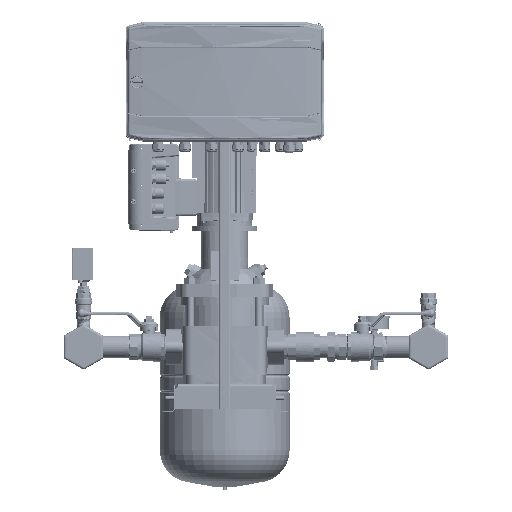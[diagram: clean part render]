
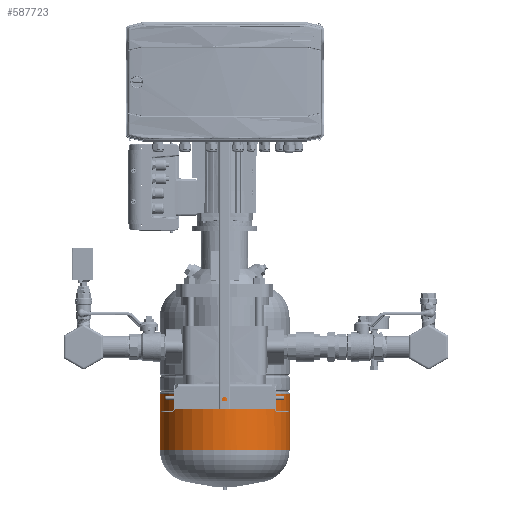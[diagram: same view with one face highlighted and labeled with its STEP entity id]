
A CAD part, left-side view. The second image highlights one B-rep face of the part: STEP entity #587723.
In plain terms, the highlighted cylindrical face has radius 140 mm (diameter 280 mm), a partial arc.
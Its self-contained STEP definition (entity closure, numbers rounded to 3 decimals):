
#580832=CARTESIAN_POINT('Vertex',(-140.,0.,-20.533)) ;
#580835=CARTESIAN_POINT('Axis2P3D Location',(0.,0.,-20.533)) ;
#580839=CARTESIAN_POINT('Vertex',(0.,-140.,-20.533)) ;
#580894=CARTESIAN_POINT('Vertex',(0.,140.,-20.533)) ;
#580897=CARTESIAN_POINT('Axis2P3D Location',(0.,0.,-20.533)) ;
#587638=CARTESIAN_POINT('Axis2P3D Location',(0.,0.,-85.867)) ;
#587643=CARTESIAN_POINT('Line Origine',(0.,140.,-85.867)) ;
#587647=CARTESIAN_POINT('Vertex',(0.,140.,-142.492)) ;
#587650=CARTESIAN_POINT('Line Origine',(0.,-140.,-85.867)) ;
#587654=CARTESIAN_POINT('Vertex',(0.,-140.,-142.492)) ;
#587692=CARTESIAN_POINT('Control Point',(-140.,0.,-142.492)) ;
#587693=CARTESIAN_POINT('Control Point',(-140.,21.991,-142.492)) ;
#587694=CARTESIAN_POINT('Control Point',(-135.682,43.982,-142.492)) ;
#587695=CARTESIAN_POINT('Control Point',(-127.042,64.842,-142.492)) ;
#587696=CARTESIAN_POINT('Control Point',(-102.048,102.048,-142.492)) ;
#587697=CARTESIAN_POINT('Control Point',(-64.842,127.042,-142.492)) ;
#587698=CARTESIAN_POINT('Control Point',(-43.982,135.682,-142.492)) ;
#587699=CARTESIAN_POINT('Control Point',(-21.991,140.,-142.492)) ;
#587700=CARTESIAN_POINT('Control Point',(0.,140.,-142.492)) ;
#587701=CARTESIAN_POINT('Vertex',(-140.,0.,-142.492)) ;
#587705=CARTESIAN_POINT('Control Point',(0.,-140.,-142.492)) ;
#587706=CARTESIAN_POINT('Control Point',(-21.991,-140.,-142.492)) ;
#587707=CARTESIAN_POINT('Control Point',(-43.982,-135.682,-142.492)) ;
#587708=CARTESIAN_POINT('Control Point',(-64.842,-127.042,-142.492)) ;
#587709=CARTESIAN_POINT('Control Point',(-102.048,-102.048,-142.492)) ;
#587710=CARTESIAN_POINT('Control Point',(-127.042,-64.842,-142.492)) ;
#587711=CARTESIAN_POINT('Control Point',(-135.682,-43.982,-142.492)) ;
#587712=CARTESIAN_POINT('Control Point',(-140.,-21.991,-142.492)) ;
#587713=CARTESIAN_POINT('Control Point',(-140.,0.,-142.492)) ;
#587645=VECTOR('Line Direction',#587644,1.) ;
#587652=VECTOR('Line Direction',#587651,1.) ;
#580836=DIRECTION('Axis2P3D Direction',(0.,0.,-1.)) ;
#580898=DIRECTION('Axis2P3D Direction',(0.,0.,-1.)) ;
#587639=DIRECTION('Axis2P3D Direction',(0.,0.,-1.)) ;
#587640=DIRECTION('Axis2P3D XDirection',(0.,-1.,0.)) ;
#587644=DIRECTION('Vector Direction',(0.,0.,-1.)) ;
#587651=DIRECTION('Vector Direction',(0.,0.,-1.)) ;
#580837=AXIS2_PLACEMENT_3D('Circle Axis2P3D',#580835,#580836,$) ;
#580899=AXIS2_PLACEMENT_3D('Circle Axis2P3D',#580897,#580898,$) ;
#587641=AXIS2_PLACEMENT_3D('Cylinder Axis2P3D',#587638,#587639,#587640) ;
#587646=LINE('Line',#587643,#587645) ;
#587653=LINE('Line',#587650,#587652) ;
#580838=CIRCLE('generated circle',#580837,140.) ;
#580900=CIRCLE('generated circle',#580899,140.) ;
#587642=CYLINDRICAL_SURFACE('generated cylinder',#587641,140.) ;
#580841=EDGE_CURVE('',#580833,#580840,#580838,.F.) ;
#580901=EDGE_CURVE('',#580895,#580833,#580900,.F.) ;
#587649=EDGE_CURVE('',#580895,#587648,#587646,.T.) ;
#587656=EDGE_CURVE('',#587655,#580840,#587653,.F.) ;
#587703=EDGE_CURVE('',#587702,#587648,#587691,.T.) ;
#587714=EDGE_CURVE('',#587655,#587702,#587704,.T.) ;
#587716=ORIENTED_EDGE('',*,*,#587656,.T.) ;
#587717=ORIENTED_EDGE('',*,*,#580841,.F.) ;
#587718=ORIENTED_EDGE('',*,*,#580901,.F.) ;
#587719=ORIENTED_EDGE('',*,*,#587649,.T.) ;
#587720=ORIENTED_EDGE('',*,*,#587703,.F.) ;
#587721=ORIENTED_EDGE('',*,*,#587714,.F.) ;
#587715=EDGE_LOOP('',(#587716,#587717,#587718,#587719,#587720,#587721)) ;
#580833=VERTEX_POINT('',#580832) ;
#580840=VERTEX_POINT('',#580839) ;
#580895=VERTEX_POINT('',#580894) ;
#587648=VERTEX_POINT('',#587647) ;
#587655=VERTEX_POINT('',#587654) ;
#587702=VERTEX_POINT('',#587701) ;
#587723=ADVANCED_FACE('MANIFOLD_SOLID_BREP #40',(#587722),#587642,.T.) ;
#587691=B_SPLINE_CURVE_WITH_KNOTS('',5,(#587692,#587693,#587694,#587695,#587696,#587697,#587698,#587699,#587700),.UNSPECIFIED.,.F.,.U.,(6,3,6),(0.,109.956,219.911),.UNSPECIFIED.) ;
#587704=B_SPLINE_CURVE_WITH_KNOTS('',5,(#587705,#587706,#587707,#587708,#587709,#587710,#587711,#587712,#587713),.UNSPECIFIED.,.F.,.U.,(6,3,6),(-219.911,-109.956,0.),.UNSPECIFIED.) ;
#587722=FACE_OUTER_BOUND('',#587715,.T.) ;
